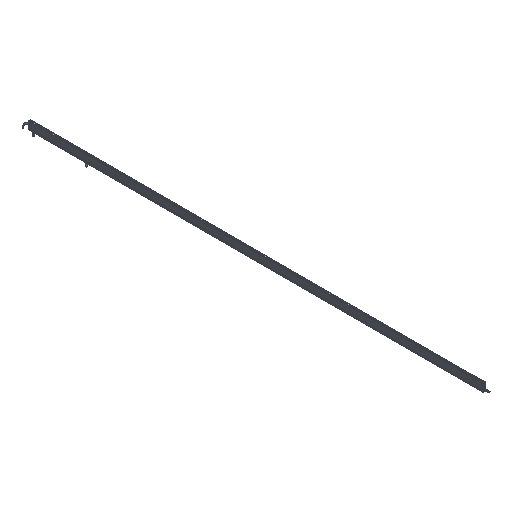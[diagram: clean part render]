
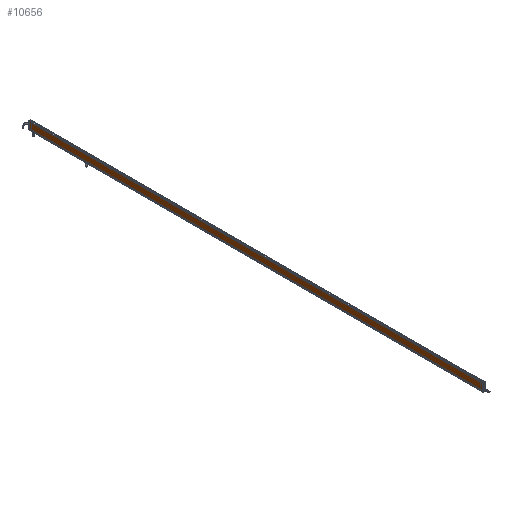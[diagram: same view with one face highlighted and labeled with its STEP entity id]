
A CAD part, isometric view. The second image highlights one B-rep face of the part: STEP entity #10656.
In plain terms, the highlighted planar face has unit normal (-1, 0, 0).
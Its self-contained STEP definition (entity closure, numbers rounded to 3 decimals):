
#184 = CARTESIAN_POINT ( 'NONE',  ( -9., 1715., 28.5 ) ) ;
#223 = EDGE_LOOP ( 'NONE', ( #17438, #6715, #12944, #12515 ) ) ;
#312 = VERTEX_POINT ( 'NONE', #3764 ) ;
#499 = AXIS2_PLACEMENT_3D ( 'NONE', #17980, #17906, #3738 ) ;
#751 = EDGE_CURVE ( 'NONE', #16101, #312, #19448, .T. ) ;
#1797 = LINE ( 'NONE', #14377, #18661 ) ;
#1825 = DIRECTION ( 'NONE',  ( 0., -1., 0. ) ) ;
#2044 = FACE_OUTER_BOUND ( 'NONE', #223, .T. ) ;
#2296 = LINE ( 'NONE', #6616, #12891 ) ;
#3738 = DIRECTION ( 'NONE',  ( 0., -1., 0. ) ) ;
#3764 = CARTESIAN_POINT ( 'NONE',  ( -9., 0., 0.5 ) ) ;
#4025 = EDGE_CURVE ( 'NONE', #7992, #18025, #1797, .T. ) ;
#4054 = EDGE_CURVE ( 'NONE', #18025, #312, #2296, .T. ) ;
#4817 = CARTESIAN_POINT ( 'NONE',  ( -9., 0., 28.5 ) ) ;
#4889 = DIRECTION ( 'NONE',  ( 0., 0., -1. ) ) ;
#6076 = VECTOR ( 'NONE', #8167, 1000. ) ;
#6616 = CARTESIAN_POINT ( 'NONE',  ( -9., 1715., 0.5 ) ) ;
#6715 = ORIENTED_EDGE ( 'NONE', *, *, #13405, .F. ) ;
#7261 = CARTESIAN_POINT ( 'NONE',  ( -9., 1715., 28.5 ) ) ;
#7992 = VERTEX_POINT ( 'NONE', #7261 ) ;
#8167 = DIRECTION ( 'NONE',  ( 0., 0., -1. ) ) ;
#8349 = VECTOR ( 'NONE', #12837, 1000. ) ;
#10656 = ADVANCED_FACE ( 'NONE', ( #2044 ), #19542, .T. ) ;
#12515 = ORIENTED_EDGE ( 'NONE', *, *, #4054, .T. ) ;
#12837 = DIRECTION ( 'NONE',  ( 0., -1., 0. ) ) ;
#12891 = VECTOR ( 'NONE', #1825, 1000. ) ;
#12944 = ORIENTED_EDGE ( 'NONE', *, *, #4025, .T. ) ;
#13405 = EDGE_CURVE ( 'NONE', #7992, #16101, #19029, .T. ) ;
#14377 = CARTESIAN_POINT ( 'NONE',  ( -9., 1715., 28.5 ) ) ;
#15020 = CARTESIAN_POINT ( 'NONE',  ( -9., 0., 28.5 ) ) ;
#15100 = CARTESIAN_POINT ( 'NONE',  ( -9., 1715., 0.5 ) ) ;
#16101 = VERTEX_POINT ( 'NONE', #15020 ) ;
#17438 = ORIENTED_EDGE ( 'NONE', *, *, #751, .F. ) ;
#17906 = DIRECTION ( 'NONE',  ( -1., 0., 0. ) ) ;
#17980 = CARTESIAN_POINT ( 'NONE',  ( -9., 1715., 28.5 ) ) ;
#18025 = VERTEX_POINT ( 'NONE', #15100 ) ;
#18661 = VECTOR ( 'NONE', #4889, 1000. ) ;
#19029 = LINE ( 'NONE', #184, #8349 ) ;
#19448 = LINE ( 'NONE', #4817, #6076 ) ;
#19542 = PLANE ( 'NONE',  #499 ) ;
